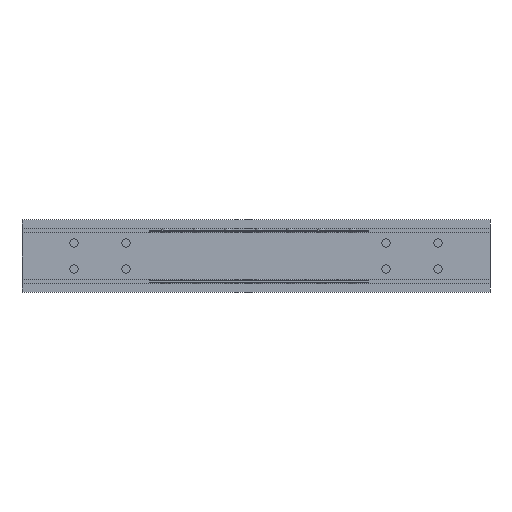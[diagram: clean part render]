
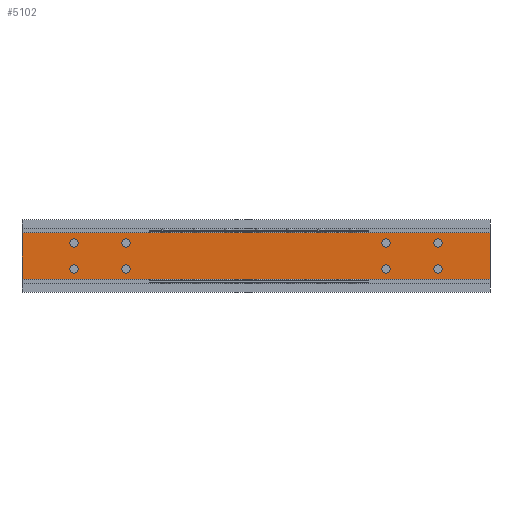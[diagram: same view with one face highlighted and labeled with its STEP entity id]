
A CAD part, left-side view. The second image highlights one B-rep face of the part: STEP entity #5102.
In plain terms, the highlighted planar face has unit normal (-1, 0, 0).
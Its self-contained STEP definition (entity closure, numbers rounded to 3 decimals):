
#122=FACE_BOUND('',#915,.T.);
#123=FACE_BOUND('',#916,.T.);
#124=FACE_BOUND('',#917,.T.);
#125=FACE_BOUND('',#918,.T.);
#126=FACE_BOUND('',#919,.T.);
#127=FACE_BOUND('',#920,.T.);
#128=FACE_BOUND('',#921,.T.);
#129=FACE_BOUND('',#922,.T.);
#365=CIRCLE('',#5462,4.);
#367=CIRCLE('',#5465,4.);
#369=CIRCLE('',#5468,4.);
#371=CIRCLE('',#5471,4.);
#373=CIRCLE('',#5474,4.);
#375=CIRCLE('',#5477,4.);
#377=CIRCLE('',#5480,4.);
#379=CIRCLE('',#5483,4.);
#600=FACE_OUTER_BOUND('',#914,.T.);
#914=EDGE_LOOP('',(#3694,#3695,#3696,#3697));
#915=EDGE_LOOP('',(#3698));
#916=EDGE_LOOP('',(#3699));
#917=EDGE_LOOP('',(#3700));
#918=EDGE_LOOP('',(#3701));
#919=EDGE_LOOP('',(#3702));
#920=EDGE_LOOP('',(#3703));
#921=EDGE_LOOP('',(#3704));
#922=EDGE_LOOP('',(#3705));
#1390=LINE('',#7496,#1890);
#1391=LINE('',#7498,#1891);
#1392=LINE('',#7500,#1892);
#1393=LINE('',#7501,#1893);
#1890=VECTOR('',#6080,1.);
#1891=VECTOR('',#6081,1.);
#1892=VECTOR('',#6082,1.);
#1893=VECTOR('',#6083,1.);
#2375=VERTEX_POINT('',#7456);
#2377=VERTEX_POINT('',#7461);
#2379=VERTEX_POINT('',#7466);
#2381=VERTEX_POINT('',#7471);
#2383=VERTEX_POINT('',#7476);
#2385=VERTEX_POINT('',#7481);
#2387=VERTEX_POINT('',#7486);
#2389=VERTEX_POINT('',#7491);
#2390=VERTEX_POINT('',#7494);
#2391=VERTEX_POINT('',#7495);
#2392=VERTEX_POINT('',#7497);
#2393=VERTEX_POINT('',#7499);
#2921=EDGE_CURVE('',#2375,#2375,#365,.T.);
#2923=EDGE_CURVE('',#2377,#2377,#367,.T.);
#2925=EDGE_CURVE('',#2379,#2379,#369,.T.);
#2927=EDGE_CURVE('',#2381,#2381,#371,.T.);
#2929=EDGE_CURVE('',#2383,#2383,#373,.T.);
#2931=EDGE_CURVE('',#2385,#2385,#375,.T.);
#2933=EDGE_CURVE('',#2387,#2387,#377,.T.);
#2935=EDGE_CURVE('',#2389,#2389,#379,.T.);
#2936=EDGE_CURVE('',#2390,#2391,#1390,.T.);
#2937=EDGE_CURVE('',#2390,#2392,#1391,.T.);
#2938=EDGE_CURVE('',#2393,#2392,#1392,.T.);
#2939=EDGE_CURVE('',#2391,#2393,#1393,.T.);
#3694=ORIENTED_EDGE('',*,*,#2936,.F.);
#3695=ORIENTED_EDGE('',*,*,#2937,.T.);
#3696=ORIENTED_EDGE('',*,*,#2938,.F.);
#3697=ORIENTED_EDGE('',*,*,#2939,.F.);
#3698=ORIENTED_EDGE('',*,*,#2921,.T.);
#3699=ORIENTED_EDGE('',*,*,#2923,.T.);
#3700=ORIENTED_EDGE('',*,*,#2925,.T.);
#3701=ORIENTED_EDGE('',*,*,#2927,.T.);
#3702=ORIENTED_EDGE('',*,*,#2929,.T.);
#3703=ORIENTED_EDGE('',*,*,#2931,.T.);
#3704=ORIENTED_EDGE('',*,*,#2933,.T.);
#3705=ORIENTED_EDGE('',*,*,#2935,.T.);
#4882=PLANE('',#5484);
#5102=ADVANCED_FACE('',(#600,#122,#123,#124,#125,#126,#127,#128,#129),#4882,
 .T.);
#5462=AXIS2_PLACEMENT_3D('',#7457,#6034,#6035);
#5465=AXIS2_PLACEMENT_3D('',#7462,#6040,#6041);
#5468=AXIS2_PLACEMENT_3D('',#7467,#6046,#6047);
#5471=AXIS2_PLACEMENT_3D('',#7472,#6052,#6053);
#5474=AXIS2_PLACEMENT_3D('',#7477,#6058,#6059);
#5477=AXIS2_PLACEMENT_3D('',#7482,#6064,#6065);
#5480=AXIS2_PLACEMENT_3D('',#7487,#6070,#6071);
#5483=AXIS2_PLACEMENT_3D('',#7492,#6076,#6077);
#5484=AXIS2_PLACEMENT_3D('',#7493,#6078,#6079);
#6034=DIRECTION('center_axis',(1.,0.,0.));
#6035=DIRECTION('ref_axis',(0.,0.,-1.));
#6040=DIRECTION('center_axis',(1.,0.,0.));
#6041=DIRECTION('ref_axis',(0.,0.,-1.));
#6046=DIRECTION('center_axis',(1.,0.,0.));
#6047=DIRECTION('ref_axis',(0.,0.,-1.));
#6052=DIRECTION('center_axis',(1.,0.,0.));
#6053=DIRECTION('ref_axis',(0.,0.,-1.));
#6058=DIRECTION('center_axis',(1.,0.,0.));
#6059=DIRECTION('ref_axis',(0.,0.,-1.));
#6064=DIRECTION('center_axis',(1.,0.,0.));
#6065=DIRECTION('ref_axis',(0.,0.,-1.));
#6070=DIRECTION('center_axis',(1.,0.,0.));
#6071=DIRECTION('ref_axis',(0.,0.,-1.));
#6076=DIRECTION('center_axis',(1.,0.,0.));
#6077=DIRECTION('ref_axis',(0.,0.,-1.));
#6078=DIRECTION('center_axis',(-1.,0.,0.));
#6079=DIRECTION('ref_axis',(0.,0.,-1.));
#6080=DIRECTION('',(0.,0.,1.));
#6081=DIRECTION('',(0.,-1.,0.));
#6082=DIRECTION('',(0.,0.,-1.));
#6083=DIRECTION('',(0.,-1.,0.));
#7456=CARTESIAN_POINT('',(-3957.143,1810.234,216.5));
#7457=CARTESIAN_POINT('Origin',(-3957.143,1810.234,212.5));
#7461=CARTESIAN_POINT('',(-3957.143,1760.234,216.5));
#7462=CARTESIAN_POINT('Origin',(-3957.143,1760.234,212.5));
#7466=CARTESIAN_POINT('',(-3957.143,1460.234,241.5));
#7467=CARTESIAN_POINT('Origin',(-3957.143,1460.234,237.5));
#7471=CARTESIAN_POINT('',(-3957.143,1510.234,241.5));
#7472=CARTESIAN_POINT('Origin',(-3957.143,1510.234,237.5));
#7476=CARTESIAN_POINT('',(-3957.143,1460.234,216.5));
#7477=CARTESIAN_POINT('Origin',(-3957.143,1460.234,212.5));
#7481=CARTESIAN_POINT('',(-3957.143,1510.234,216.5));
#7482=CARTESIAN_POINT('Origin',(-3957.143,1510.234,212.5));
#7486=CARTESIAN_POINT('',(-3957.143,1760.234,241.5));
#7487=CARTESIAN_POINT('Origin',(-3957.143,1760.234,237.5));
#7491=CARTESIAN_POINT('',(-3957.143,1810.234,241.5));
#7492=CARTESIAN_POINT('Origin',(-3957.143,1810.234,237.5));
#7493=CARTESIAN_POINT('Origin',(-3957.143,1860.234,247.5));
#7494=CARTESIAN_POINT('',(-3957.143,1860.234,202.5));
#7495=CARTESIAN_POINT('',(-3957.143,1860.234,247.5));
#7496=CARTESIAN_POINT('',(-3957.143,1860.234,202.5));
#7497=CARTESIAN_POINT('',(-3957.143,1410.234,202.5));
#7498=CARTESIAN_POINT('',(-3957.143,1860.234,202.5));
#7499=CARTESIAN_POINT('',(-3957.143,1410.234,247.5));
#7500=CARTESIAN_POINT('',(-3957.143,1410.234,202.5));
#7501=CARTESIAN_POINT('',(-3957.143,1860.234,247.5));
